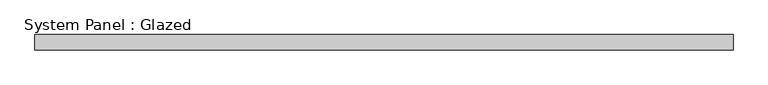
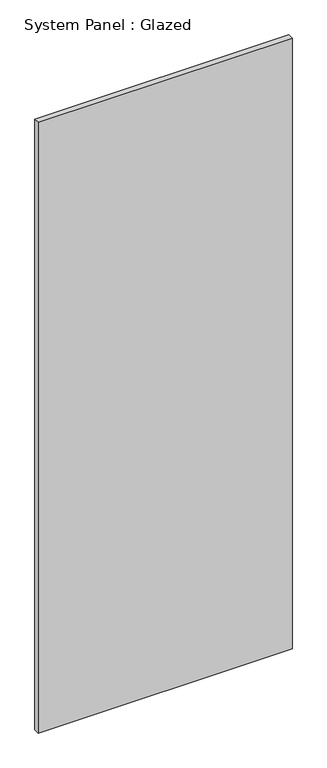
"""IFC4 building model written with IfcOpenShell, lengths in millimetres: plate geometry, System Panel : Glazed."""

from ifc_helpers import new_model, si_unit, origin, origin_with_axes, place, context, project, spatial, polyline, outline, extrude, source, transform, mapped, element, save


def system_panel_glazed_1d5b51f5(model_context):
    return source(origin(), model_context, "Body", "SweptSolid", [
        extrude(outline(polyline([(574.9999999, 24.5), (-574.9999999, 24.5), (-574.9999999, 49.5), (574.9999999, 49.5), (574.9999999, 24.5)])), origin_with_axes(), (0.0, 0.0, 1.0), 2925.0),
    ])


if __name__ == "__main__":
    model = new_model("IFC4")
    model_context = context("Model", 3, world=origin())
    ifc_project = project(units=[si_unit("LENGTHUNIT", "METRE", prefix="MILLI")], contexts=[model_context])
    site = spatial("IfcSite", under=ifc_project)
    building = spatial("IfcBuilding", under=site)
    placement = place(None, origin())
    system_panel_glazed_shape = system_panel_glazed_1d5b51f5(model_context)
    element("IfcPlate", 1, ObjectType="System Panel : Glazed", at=placement, inside=building, context=model_context, shape_type="MappedRepresentation", body=[
        mapped(system_panel_glazed_shape, transform((0.0, 0.0, 0.0), x_axis=(1.0, 0.0, 0.0), y_axis=(0.0, 1.0, 0.0), z_axis=(0.0, 0.0, 1.0))),
    ])
    save(model, "model.ifc")
